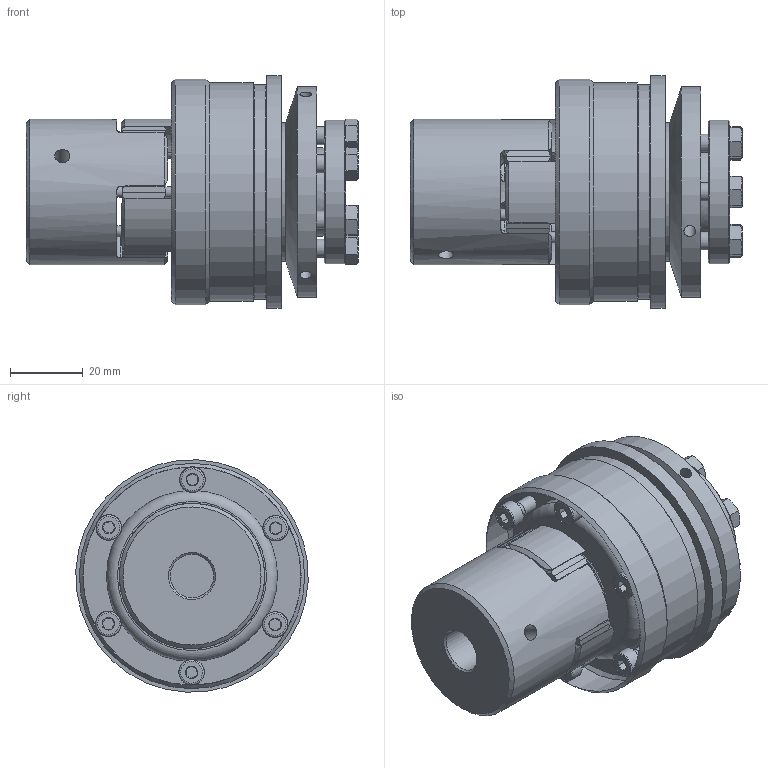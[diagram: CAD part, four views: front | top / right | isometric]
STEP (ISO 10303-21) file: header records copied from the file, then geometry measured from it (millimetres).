
FILE_DESCRIPTION( ( 'Unknown' ), '1' );
FILE_NAME( 'C:/Users/skarpstein/Desktop/Korrigierte 3D Modelle/KBK-E-PI/KBK EPI-19.stp', 'Unknown', ( 'Unknown' ), ( 'Unknown' ), 'PSStep 16.0.42', 'Unknown', ' ' );
FILE_SCHEMA( ( 'AUTOMOTIVE_DESIGN { 1 0 10303 214 1 1 1 1 }' ) );
Length unit declared in the file: millimetre
Products named in the file (29): ball_bearing_-_6005_0_01; ball_bearing_-_6005_0_03; ball_bearing_-_6005_0_02; Druckring 30; Assem1_0; din_en_24017_m5x16; ISO EN DIN 4762_M4x16; Stellring 30; KBK L-I-30 Grundkörper; Konusbuchse KBK L-I-30; a_25; Zahnkranz_19; Elastomerflansch 19; Flansch L30; Assem1; KBE 1 - 19_Nabe
Assembly tree (38 placements, depth 4):
  Assem1
    KBE 1 - 19_Nabe
    KBK L-I-30 Grundkörper
      KBK L-I-30 Grundkörper
    Stellring 30
      Stellring 30
    Druckring 30
      Druckring 30
    Flansch L30
      Flansch L30
    a_25
      a_25
    Konusbuchse KBK L-I-30
      Konusbuchse KBK L-I-30
    din_en_24017_m5x16  x6
      din_en_24017_m5x16
    Elastomerflansch 19
      Elastomerflansch 19
    Zahnkranz_19
      Zahnkranz_19
    ISO EN DIN 4762_M4x16  x6
      ISO EN DIN 4762_M4x16
    Assem1_0
      ball_bearing_-_6005_0_01
        ball_bearing_-_6005_0_01
      ball_bearing_-_6005_0_02
        ball_bearing_-_6005_0_02
      ball_bearing_-_6005_0_03
        ball_bearing_-_6005_0_03
Bounding box: 91.35 x 63.92 x 63.92 mm (x, y, z)
Volume: 146011.3 mm3; surface area: 74075.7 mm2
Topology: 24 solids, 24 shells, 595 faces, 1264 edges, 785 vertices
Faces by surface type: plane 234, cone 166, cylinder 158, torus 37
Full cylindrical faces by diameter (mm): 2 x2, 3 x6, 3.242 x9, 3.5 x6, 4 x12, 4.134 x9, 4.2 x7, 5 x6, 5.5 x6, 6.88 x6, 7 x12, 8 x1, 12 x3, 18 x2, 23.9 x1, 24.4 x1, 25 x3, 32 x2, 34 x1, 38 x2, 39.5 x1, 40 x2, 40.3 x2, 47 x3, 52 x1, 58 x1, 59 x1, 60 x1, 62 x1, 64 x1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
Entity records: 13496 total; most frequent: CARTESIAN_POINT 2404, DIRECTION 1760, ORIENTED_EDGE 1316, AXIS2_PLACEMENT_3D 807, EDGE_CURVE 658, EDGE_LOOP 575, VERTEX_POINT 483, FACE_OUTER_BOUND 455
